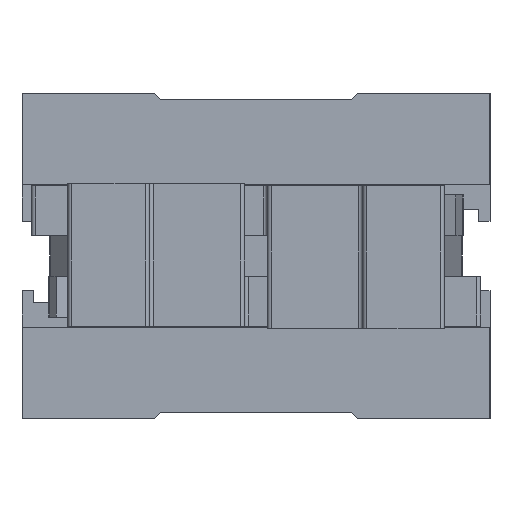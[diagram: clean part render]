
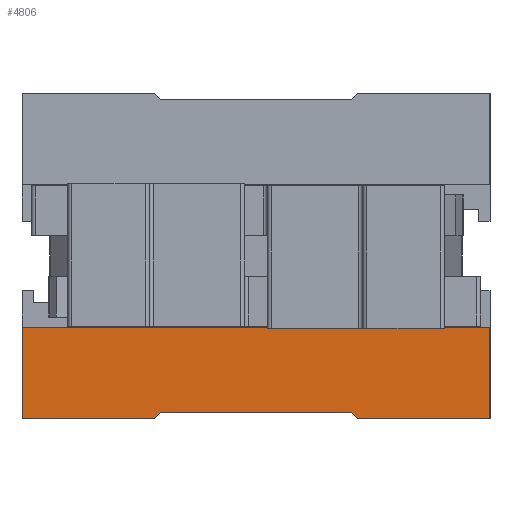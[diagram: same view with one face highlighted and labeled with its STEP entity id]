
A CAD part, left-side view. The second image highlights one B-rep face of the part: STEP entity #4806.
In plain terms, the highlighted planar face has unit normal (-1, 0, 0).
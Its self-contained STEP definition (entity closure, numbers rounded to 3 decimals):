
#65=LINE('',#7184,#485);
#122=LINE('',#7372,#542);
#161=LINE('',#7462,#581);
#164=LINE('',#7468,#584);
#165=LINE('',#7469,#585);
#166=LINE('',#7470,#586);
#167=LINE('',#7472,#587);
#168=LINE('',#7474,#588);
#485=VECTOR('',#5678,1000.);
#542=VECTOR('',#5803,1000.);
#581=VECTOR('',#5888,1000.);
#584=VECTOR('',#5893,1000.);
#585=VECTOR('',#5894,1000.);
#586=VECTOR('',#5895,1000.);
#587=VECTOR('',#5896,1000.);
#588=VECTOR('',#5897,1000.);
#941=PLANE('',#5177);
#1264=ORIENTED_EDGE('',*,*,#2588,.T.);
#1265=ORIENTED_EDGE('',*,*,#2540,.F.);
#1266=ORIENTED_EDGE('',*,*,#2589,.F.);
#1267=ORIENTED_EDGE('',*,*,#2457,.F.);
#1268=ORIENTED_EDGE('',*,*,#2590,.F.);
#1269=ORIENTED_EDGE('',*,*,#2591,.F.);
#1270=ORIENTED_EDGE('',*,*,#2592,.F.);
#1271=ORIENTED_EDGE('',*,*,#2585,.F.);
#2457=EDGE_CURVE('',#3138,#3139,#65,.T.);
#2540=EDGE_CURVE('',#3215,#3212,#122,.T.);
#2585=EDGE_CURVE('',#3243,#3244,#161,.T.);
#2588=EDGE_CURVE('',#3243,#3212,#164,.T.);
#2589=EDGE_CURVE('',#3139,#3215,#165,.T.);
#2590=EDGE_CURVE('',#3246,#3138,#166,.T.);
#2591=EDGE_CURVE('',#3247,#3246,#167,.T.);
#2592=EDGE_CURVE('',#3244,#3247,#168,.T.);
#3138=VERTEX_POINT('',#7183);
#3139=VERTEX_POINT('',#7185);
#3212=VERTEX_POINT('',#7365);
#3215=VERTEX_POINT('',#7371);
#3243=VERTEX_POINT('',#7461);
#3244=VERTEX_POINT('',#7463);
#3246=VERTEX_POINT('',#7471);
#3247=VERTEX_POINT('',#7473);
#3899=EDGE_LOOP('',(#1264,#1265,#1266,#1267,#1268,#1269,#1270,#1271));
#4317=FACE_BOUND('',#3899,.T.);
#4806=ADVANCED_FACE('',(#4317),#941,.F.);
#5177=AXIS2_PLACEMENT_3D('',#7467,#5891,#5892);
#5678=DIRECTION('',(0.,-0.707,0.707));
#5803=DIRECTION('',(0.,0.,-1.));
#5888=DIRECTION('',(0.,0.,1.));
#5891=DIRECTION('',(1.,0.,0.));
#5892=DIRECTION('',(0.,0.,-1.));
#5893=DIRECTION('',(0.,-1.,0.));
#5894=DIRECTION('',(0.,-1.,0.));
#5895=DIRECTION('',(0.,-1.,0.));
#5896=DIRECTION('',(0.,-0.707,-0.707));
#5897=DIRECTION('',(0.,-1.,0.));
#7183=CARTESIAN_POINT('',(0.,-4.7,7.7));
#7184=CARTESIAN_POINT('',(0.,-4.7,7.7));
#7185=CARTESIAN_POINT('',(0.,-5.,8.));
#7365=CARTESIAN_POINT('',(0.,-11.5,3.5));
#7371=CARTESIAN_POINT('',(0.,-11.5,8.));
#7372=CARTESIAN_POINT('',(0.,-11.5,8.));
#7461=CARTESIAN_POINT('',(0.,11.5,3.5));
#7462=CARTESIAN_POINT('',(0.,11.5,1.7));
#7463=CARTESIAN_POINT('',(0.,11.5,8.));
#7467=CARTESIAN_POINT('',(0.,0.,0.));
#7468=CARTESIAN_POINT('',(0.,11.5,3.5));
#7469=CARTESIAN_POINT('',(0.,-5.,8.));
#7470=CARTESIAN_POINT('',(0.,4.7,7.7));
#7471=CARTESIAN_POINT('',(0.,4.7,7.7));
#7472=CARTESIAN_POINT('',(0.,5.,8.));
#7473=CARTESIAN_POINT('',(0.,5.,8.));
#7474=CARTESIAN_POINT('',(0.,11.5,8.));
